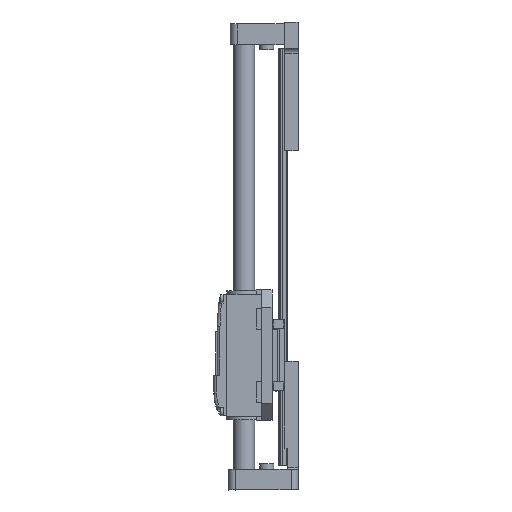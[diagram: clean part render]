
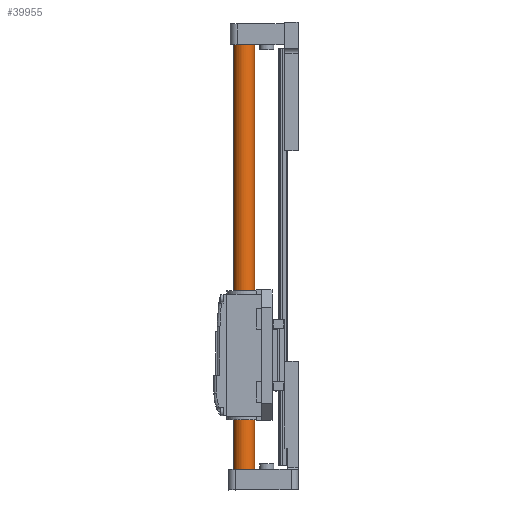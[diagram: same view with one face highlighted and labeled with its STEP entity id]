
A CAD part, left-side view. The second image highlights one B-rep face of the part: STEP entity #39955.
In plain terms, the highlighted cylindrical face has radius 6 mm (diameter 12 mm), a full revolution.
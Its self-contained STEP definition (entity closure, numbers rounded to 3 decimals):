
#39841 = TOROIDAL_SURFACE('',#39842,5.2,0.8);
#39842 = AXIS2_PLACEMENT_3D('',#39843,#39844,#39845);
#39843 = CARTESIAN_POINT('',(0.,0.,253.2));
#39844 = DIRECTION('',(0.,0.,1.));
#39845 = DIRECTION('',(1.,0.,-0.));
#39909 = TOROIDAL_SURFACE('',#39910,5.2,0.8);
#39910 = AXIS2_PLACEMENT_3D('',#39911,#39912,#39913);
#39911 = CARTESIAN_POINT('',(0.,0.,0.8));
#39912 = DIRECTION('',(0.,0.,-1.));
#39913 = DIRECTION('',(-1.,0.,0.));
#39955 = ADVANCED_FACE('',(#39956),#39971,.T.);
#39956 = FACE_BOUND('',#39957,.T.);
#39957 = EDGE_LOOP('',(#39958,#39989,#40011,#40033,#40034));
#39958 = ORIENTED_EDGE('',*,*,#39959,.F.);
#39959 = EDGE_CURVE('',#39960,#39962,#39964,.T.);
#39960 = VERTEX_POINT('',#39961);
#39961 = CARTESIAN_POINT('',(6.,0.,0.8));
#39962 = VERTEX_POINT('',#39963);
#39963 = CARTESIAN_POINT('',(-6.,0.,0.8));
#39964 = SURFACE_CURVE('',#39965,(#39970,#39982),.PCURVE_S1.);
#39965 = CIRCLE('',#39966,6.);
#39966 = AXIS2_PLACEMENT_3D('',#39967,#39968,#39969);
#39967 = CARTESIAN_POINT('',(0.,0.,0.8));
#39968 = DIRECTION('',(0.,0.,-1.));
#39969 = DIRECTION('',(-1.,0.,0.));
#39970 = PCURVE('',#39971,#39976);
#39971 = CYLINDRICAL_SURFACE('',#39972,6.);
#39972 = AXIS2_PLACEMENT_3D('',#39973,#39974,#39975);
#39973 = CARTESIAN_POINT('',(0.,0.,0.));
#39974 = DIRECTION('',(0.,0.,1.));
#39975 = DIRECTION('',(1.,0.,-0.));
#39976 = DEFINITIONAL_REPRESENTATION('',(#39977),#39981);
#39977 = LINE('',#39978,#39979);
#39978 = CARTESIAN_POINT('',(9.425,0.8));
#39979 = VECTOR('',#39980,1.);
#39980 = DIRECTION('',(-1.,0.));
#39981 = ( GEOMETRIC_REPRESENTATION_CONTEXT(2) 
PARAMETRIC_REPRESENTATION_CONTEXT() REPRESENTATION_CONTEXT('2D SPACE',''
  ) );
#39982 = PCURVE('',#39909,#39983);
#39983 = DEFINITIONAL_REPRESENTATION('',(#39984),#39988);
#39984 = LINE('',#39985,#39986);
#39985 = CARTESIAN_POINT('',(0.,6.283));
#39986 = VECTOR('',#39987,1.);
#39987 = DIRECTION('',(1.,0.));
#39988 = ( GEOMETRIC_REPRESENTATION_CONTEXT(2) 
PARAMETRIC_REPRESENTATION_CONTEXT() REPRESENTATION_CONTEXT('2D SPACE',''
  ) );
#39989 = ORIENTED_EDGE('',*,*,#39990,.T.);
#39990 = EDGE_CURVE('',#39960,#39991,#39993,.T.);
#39991 = VERTEX_POINT('',#39992);
#39992 = CARTESIAN_POINT('',(6.,0.,253.2));
#39993 = SEAM_CURVE('',#39994,(#39997,#40004),.PCURVE_S1.);
#39994 = B_SPLINE_CURVE_WITH_KNOTS('',1,(#39995,#39996),.UNSPECIFIED.,
  .F.,.F.,(2,2),(0.8,253.2),.PIECEWISE_BEZIER_KNOTS.);
#39995 = CARTESIAN_POINT('',(6.,0.,0.8));
#39996 = CARTESIAN_POINT('',(6.,0.,253.2));
#39997 = PCURVE('',#39971,#39998);
#39998 = DEFINITIONAL_REPRESENTATION('',(#39999),#40003);
#39999 = LINE('',#40000,#40001);
#40000 = CARTESIAN_POINT('',(6.283,0.));
#40001 = VECTOR('',#40002,1.);
#40002 = DIRECTION('',(0.,1.));
#40003 = ( GEOMETRIC_REPRESENTATION_CONTEXT(2) 
PARAMETRIC_REPRESENTATION_CONTEXT() REPRESENTATION_CONTEXT('2D SPACE',''
  ) );
#40004 = PCURVE('',#39971,#40005);
#40005 = DEFINITIONAL_REPRESENTATION('',(#40006),#40010);
#40006 = LINE('',#40007,#40008);
#40007 = CARTESIAN_POINT('',(0.,0.));
#40008 = VECTOR('',#40009,1.);
#40009 = DIRECTION('',(0.,1.));
#40010 = ( GEOMETRIC_REPRESENTATION_CONTEXT(2) 
PARAMETRIC_REPRESENTATION_CONTEXT() REPRESENTATION_CONTEXT('2D SPACE',''
  ) );
#40011 = ORIENTED_EDGE('',*,*,#40012,.T.);
#40012 = EDGE_CURVE('',#39991,#39991,#40013,.T.);
#40013 = SURFACE_CURVE('',#40014,(#40019,#40026),.PCURVE_S1.);
#40014 = CIRCLE('',#40015,6.);
#40015 = AXIS2_PLACEMENT_3D('',#40016,#40017,#40018);
#40016 = CARTESIAN_POINT('',(0.,0.,253.2));
#40017 = DIRECTION('',(0.,0.,-1.));
#40018 = DIRECTION('',(1.,0.,0.));
#40019 = PCURVE('',#39971,#40020);
#40020 = DEFINITIONAL_REPRESENTATION('',(#40021),#40025);
#40021 = LINE('',#40022,#40023);
#40022 = CARTESIAN_POINT('',(6.283,253.2));
#40023 = VECTOR('',#40024,1.);
#40024 = DIRECTION('',(-1.,0.));
#40025 = ( GEOMETRIC_REPRESENTATION_CONTEXT(2) 
PARAMETRIC_REPRESENTATION_CONTEXT() REPRESENTATION_CONTEXT('2D SPACE',''
  ) );
#40026 = PCURVE('',#39841,#40027);
#40027 = DEFINITIONAL_REPRESENTATION('',(#40028),#40032);
#40028 = LINE('',#40029,#40030);
#40029 = CARTESIAN_POINT('',(6.283,6.283));
#40030 = VECTOR('',#40031,1.);
#40031 = DIRECTION('',(-1.,0.));
#40032 = ( GEOMETRIC_REPRESENTATION_CONTEXT(2) 
PARAMETRIC_REPRESENTATION_CONTEXT() REPRESENTATION_CONTEXT('2D SPACE',''
  ) );
#40033 = ORIENTED_EDGE('',*,*,#39990,.F.);
#40034 = ORIENTED_EDGE('',*,*,#40035,.F.);
#40035 = EDGE_CURVE('',#39962,#39960,#40036,.T.);
#40036 = SURFACE_CURVE('',#40037,(#40042,#40049),.PCURVE_S1.);
#40037 = CIRCLE('',#40038,6.);
#40038 = AXIS2_PLACEMENT_3D('',#40039,#40040,#40041);
#40039 = CARTESIAN_POINT('',(0.,0.,0.8));
#40040 = DIRECTION('',(0.,0.,-1.));
#40041 = DIRECTION('',(-1.,0.,0.));
#40042 = PCURVE('',#39971,#40043);
#40043 = DEFINITIONAL_REPRESENTATION('',(#40044),#40048);
#40044 = LINE('',#40045,#40046);
#40045 = CARTESIAN_POINT('',(3.142,0.8));
#40046 = VECTOR('',#40047,1.);
#40047 = DIRECTION('',(-1.,0.));
#40048 = ( GEOMETRIC_REPRESENTATION_CONTEXT(2) 
PARAMETRIC_REPRESENTATION_CONTEXT() REPRESENTATION_CONTEXT('2D SPACE',''
  ) );
#40049 = PCURVE('',#39909,#40050);
#40050 = DEFINITIONAL_REPRESENTATION('',(#40051),#40055);
#40051 = LINE('',#40052,#40053);
#40052 = CARTESIAN_POINT('',(0.,6.283));
#40053 = VECTOR('',#40054,1.);
#40054 = DIRECTION('',(1.,0.));
#40055 = ( GEOMETRIC_REPRESENTATION_CONTEXT(2) 
PARAMETRIC_REPRESENTATION_CONTEXT() REPRESENTATION_CONTEXT('2D SPACE',''
  ) );
